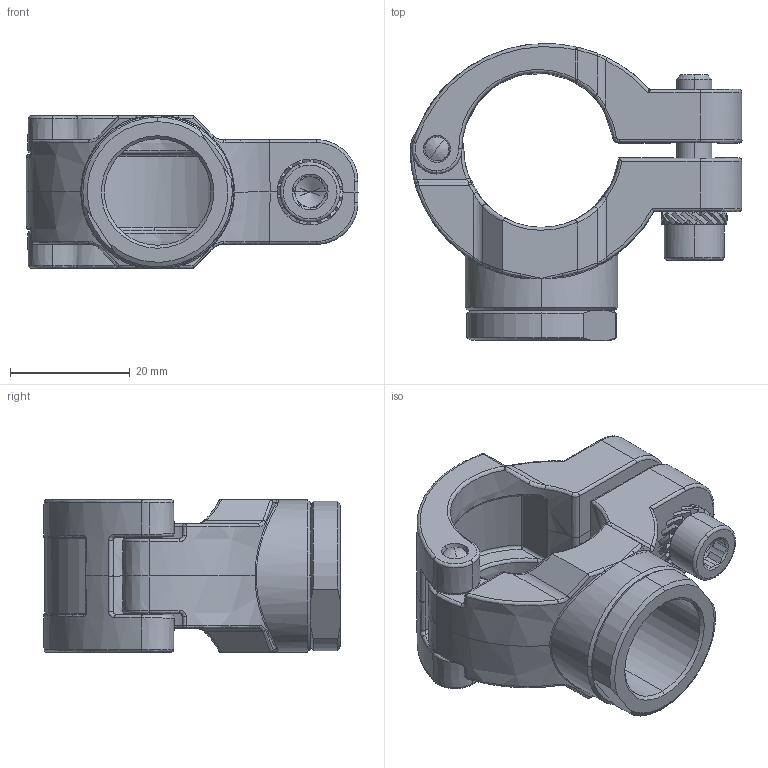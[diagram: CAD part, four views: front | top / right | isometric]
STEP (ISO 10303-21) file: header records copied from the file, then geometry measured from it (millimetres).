
FILE_DESCRIPTION (( 'STEP AP214' ), '1' );
FILE_NAME ('9024900002.STEP', '2014-04-17T08:12:19', ( '' ), ( '' ), 'SwSTEP 2.0', 'SolidWorks 2013', '' );
FILE_SCHEMA (( 'AUTOMOTIVE_DESIGN' ));
Length unit declared in the file: millimetre
Products named in the file (1): 9024900002
Bounding box: 55.5 x 49.64 x 25.5 mm (x, y, z)
Volume: 19285.5 mm3; surface area: 12836.8 mm2
Topology: 5 solids, 5 shells, 578 faces, 1496 edges, 896 vertices
Faces by surface type: plane 230, bspline 171, cylinder 105, cone 72
Entity records: 28320 total; most frequent: CARTESIAN_POINT 13106, ORIENTED_EDGE 2922, DIRECTION 2100, EDGE_CURVE 1461, VERTEX_POINT 896, AXIS2_PLACEMENT_3D 763, EDGE_LOOP 595, FACE_OUTER_BOUND 578
